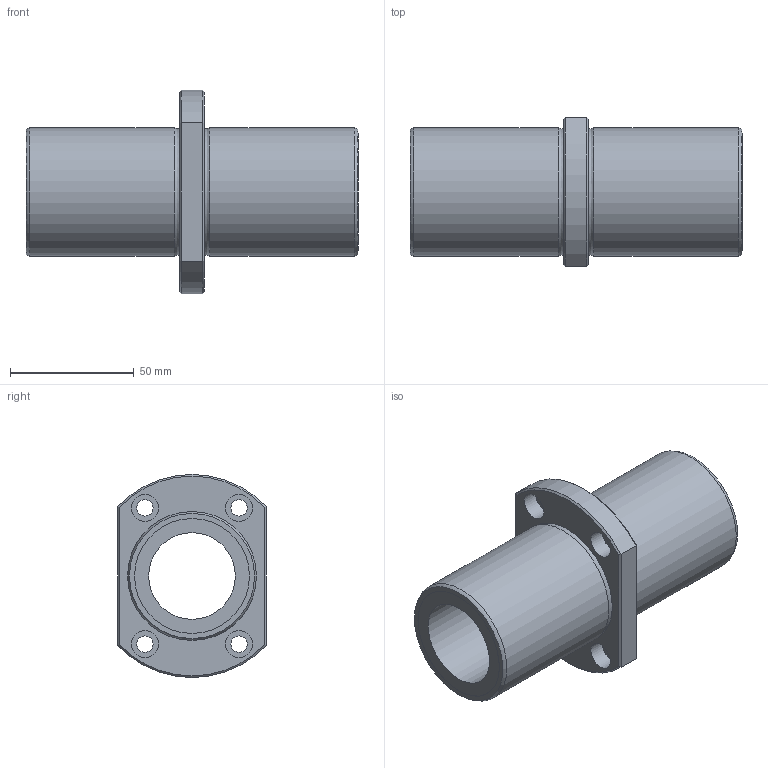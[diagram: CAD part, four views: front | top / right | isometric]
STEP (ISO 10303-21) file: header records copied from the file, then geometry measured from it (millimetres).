
FILE_DESCRIPTION((''),'2;1');
FILE_NAME('D:\製品 (図面)\カタログ用3D\リニアベアリング関連\STEP形式\LFDTC\LFDTC35B.stp','2010-06-04T08:43:05',('Tsuchiya'),(''),'Autodesk Inventor 10','Autodesk Inventor 10','');
FILE_SCHEMA(('AUTOMOTIVE_DESIGN { 1 0 10303 214 1 1 1 1 }'));
Length unit declared in the file: millimetre
Products named in the file (1): LFDTC35B
Bounding box: 134 x 60 x 82 mm (x, y, z)
Volume: 175140.2 mm3; surface area: 45068.6 mm2
Topology: 1 solids, 1 shells, 39 faces, 75 edges, 46 vertices
Faces by surface type: plane 16, cylinder 15, cone 4, torus 2, bspline 2
Full cylindrical faces by diameter (mm): 6.6 x4, 11 x4, 35 x1, 46.4 x2, 52 x2
Entity records: 1073 total; most frequent: CARTESIAN_POINT 292, DIRECTION 164, ORIENTED_EDGE 116, AXIS2_PLACEMENT_3D 76, EDGE_LOOP 74, EDGE_CURVE 58, VERTEX_POINT 46, FACE_OUTER_BOUND 39
